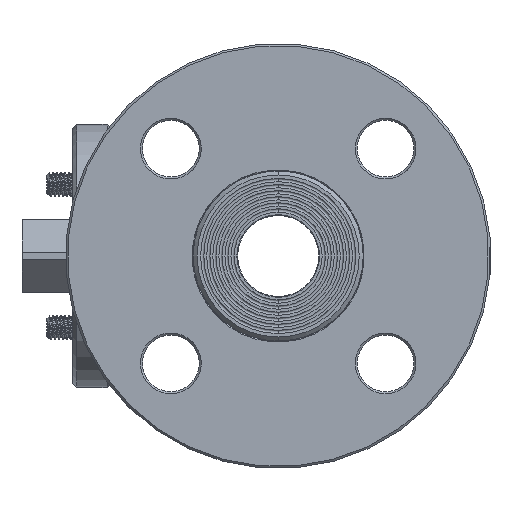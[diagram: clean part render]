
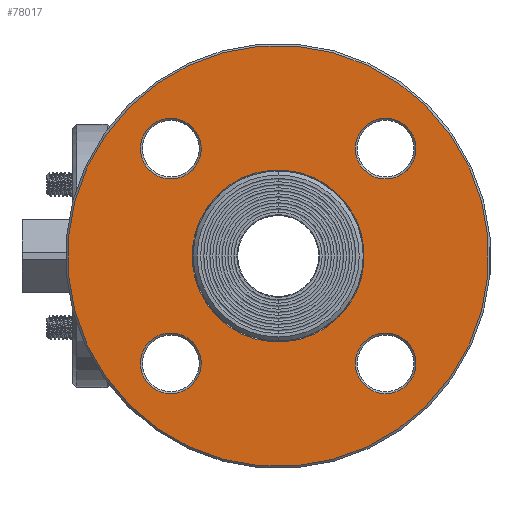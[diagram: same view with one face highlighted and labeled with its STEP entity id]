
A CAD part, left-side view. The second image highlights one B-rep face of the part: STEP entity #78017.
In plain terms, the highlighted planar face has unit normal (-1, 0, 0).
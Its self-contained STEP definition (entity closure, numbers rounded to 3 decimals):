
#38816=CARTESIAN_POINT('',(-58.,0.,0.));
#38817=DIRECTION('',(-1.,0.,0.));
#38818=DIRECTION('',(0.,0.707,0.707));
#38819=AXIS2_PLACEMENT_3D('',#38816,#38817,#38818);
#38824=CARTESIAN_POINT('',(-58.,0.,0.));
#38825=DIRECTION('',(-1.,0.,0.));
#38826=DIRECTION('',(0.,-0.707,-0.707));
#38827=AXIS2_PLACEMENT_3D('',#38824,#38825,#38826);
#38832=CARTESIAN_POINT('',(-58.,0.,0.));
#38833=DIRECTION('',(-1.,0.,0.));
#38834=DIRECTION('',(0.,0.707,0.707));
#38835=AXIS2_PLACEMENT_3D('',#38832,#38833,#38834);
#38840=CARTESIAN_POINT('',(-58.,0.,0.));
#38841=DIRECTION('',(-1.,0.,0.));
#38842=DIRECTION('',(0.,-0.707,-0.707));
#38843=AXIS2_PLACEMENT_3D('',#38840,#38841,#38842);
#38848=CARTESIAN_POINT('',(-58.,-26.517,-26.517));
#38849=DIRECTION('',(1.,0.,0.));
#38850=DIRECTION('',(0.,-0.707,-0.707));
#38851=AXIS2_PLACEMENT_3D('',#38848,#38849,#38850);
#38878=CARTESIAN_POINT('',(-58.,-26.517,-26.517));
#38879=DIRECTION('',(1.,0.,0.));
#38880=DIRECTION('',(0.,0.707,0.707));
#38881=AXIS2_PLACEMENT_3D('',#38878,#38879,#38880);
#39046=CARTESIAN_POINT('',(-58.,26.517,-26.517));
#39047=DIRECTION('',(1.,0.,0.));
#39048=DIRECTION('',(0.,-0.707,-0.707));
#39049=AXIS2_PLACEMENT_3D('',#39046,#39047,#39048);
#39076=CARTESIAN_POINT('',(-58.,26.517,-26.517));
#39077=DIRECTION('',(1.,0.,0.));
#39078=DIRECTION('',(0.,0.707,0.707));
#39079=AXIS2_PLACEMENT_3D('',#39076,#39077,#39078);
#39152=CARTESIAN_POINT('',(-58.,26.517,26.517));
#39153=DIRECTION('',(1.,0.,0.));
#39154=DIRECTION('',(0.,-0.707,-0.707));
#39155=AXIS2_PLACEMENT_3D('',#39152,#39153,#39154);
#39168=CARTESIAN_POINT('',(-58.,26.517,26.517));
#39169=DIRECTION('',(1.,0.,0.));
#39170=DIRECTION('',(0.,0.707,0.707));
#39171=AXIS2_PLACEMENT_3D('',#39168,#39169,#39170);
#39258=CARTESIAN_POINT('',(-58.,-26.517,26.517));
#39259=DIRECTION('',(1.,0.,0.));
#39260=DIRECTION('',(0.,-0.707,-0.707));
#39261=AXIS2_PLACEMENT_3D('',#39258,#39259,#39260);
#39288=CARTESIAN_POINT('',(-58.,-26.517,26.517));
#39289=DIRECTION('',(1.,0.,0.));
#39290=DIRECTION('',(0.,0.707,0.707));
#39291=AXIS2_PLACEMENT_3D('',#39288,#39289,#39290);
#41824=CARTESIAN_POINT('',(-58.,-21.213,31.82));
#41825=CARTESIAN_POINT('',(-58.,-31.82,21.213));
#41826=VERTEX_POINT('',#41824);
#41827=VERTEX_POINT('',#41825);
#41832=CARTESIAN_POINT('',(-58.,21.213,21.213));
#41833=CARTESIAN_POINT('',(-58.,31.82,31.82));
#41834=VERTEX_POINT('',#41832);
#41835=VERTEX_POINT('',#41833);
#41840=CARTESIAN_POINT('',(-58.,31.82,-21.213));
#41841=CARTESIAN_POINT('',(-58.,21.213,-31.82));
#41842=VERTEX_POINT('',#41840);
#41843=VERTEX_POINT('',#41841);
#41848=CARTESIAN_POINT('',(-58.,-21.213,-21.213));
#41849=CARTESIAN_POINT('',(-58.,-31.82,-31.82));
#41850=VERTEX_POINT('',#41848);
#41851=VERTEX_POINT('',#41849);
#41888=CARTESIAN_POINT('',(-58.,15.026,15.026));
#41889=CARTESIAN_POINT('',(-58.,-15.026,-15.026));
#41890=VERTEX_POINT('',#41888);
#41891=VERTEX_POINT('',#41889);
#41908=CARTESIAN_POINT('',(-58.,36.77,36.77));
#41909=CARTESIAN_POINT('',(-58.,-36.77,-36.77));
#41910=VERTEX_POINT('',#41908);
#41911=VERTEX_POINT('',#41909);
#77978=CARTESIAN_POINT('',(-58.,0.,0.));
#77979=DIRECTION('',(-1.,0.,0.));
#77980=DIRECTION('',(0.,-0.707,-0.707));
#77981=AXIS2_PLACEMENT_3D('',#77978,#77979,#77980);
#77982=PLANE('',#77981);
#77984=ORIENTED_EDGE('',*,*,#77983,.F.);
#77986=ORIENTED_EDGE('',*,*,#77985,.F.);
#77987=EDGE_LOOP('',(#77984,#77986));
#77988=FACE_OUTER_BOUND('',#77987,.F.);
#77990=ORIENTED_EDGE('',*,*,#77989,.F.);
#77992=ORIENTED_EDGE('',*,*,#77991,.F.);
#77993=EDGE_LOOP('',(#77990,#77992));
#77994=FACE_BOUND('',#77993,.F.);
#77996=ORIENTED_EDGE('',*,*,#77995,.F.);
#77998=ORIENTED_EDGE('',*,*,#77997,.F.);
#77999=EDGE_LOOP('',(#77996,#77998));
#78000=FACE_BOUND('',#77999,.F.);
#78002=ORIENTED_EDGE('',*,*,#78001,.F.);
#78004=ORIENTED_EDGE('',*,*,#78003,.F.);
#78005=EDGE_LOOP('',(#78002,#78004));
#78006=FACE_BOUND('',#78005,.F.);
#78007=ORIENTED_EDGE('',*,*,#77972,.T.);
#78008=ORIENTED_EDGE('',*,*,#77929,.T.);
#78009=EDGE_LOOP('',(#78007,#78008));
#78010=FACE_BOUND('',#78009,.F.);
#78012=ORIENTED_EDGE('',*,*,#78011,.F.);
#78014=ORIENTED_EDGE('',*,*,#78013,.F.);
#78015=EDGE_LOOP('',(#78012,#78014));
#78016=FACE_BOUND('',#78015,.F.);
#78017=ADVANCED_FACE('',(#77988,#77994,#78000,#78006,#78010,#78016),#77982,.T.);
#38820=CIRCLE('',#38819,21.25);
#38828=CIRCLE('',#38827,21.25);
#38836=CIRCLE('',#38835,52.);
#38844=CIRCLE('',#38843,52.);
#38852=CIRCLE('',#38851,7.5);
#38882=CIRCLE('',#38881,7.5);
#39050=CIRCLE('',#39049,7.5);
#39080=CIRCLE('',#39079,7.5);
#39156=CIRCLE('',#39155,7.5);
#39172=CIRCLE('',#39171,7.5);
#39262=CIRCLE('',#39261,7.5);
#39292=CIRCLE('',#39291,7.5);
#77929=EDGE_CURVE('',#41891,#41890,#38828,.T.);
#77972=EDGE_CURVE('',#41890,#41891,#38820,.T.);
#77983=EDGE_CURVE('',#41910,#41911,#38836,.T.);
#77985=EDGE_CURVE('',#41911,#41910,#38844,.T.);
#77989=EDGE_CURVE('',#41843,#41842,#39050,.T.);
#77991=EDGE_CURVE('',#41842,#41843,#39080,.T.);
#77995=EDGE_CURVE('',#41834,#41835,#39156,.T.);
#77997=EDGE_CURVE('',#41835,#41834,#39172,.T.);
#78001=EDGE_CURVE('',#41827,#41826,#39262,.T.);
#78003=EDGE_CURVE('',#41826,#41827,#39292,.T.);
#78011=EDGE_CURVE('',#41851,#41850,#38852,.T.);
#78013=EDGE_CURVE('',#41850,#41851,#38882,.T.);
